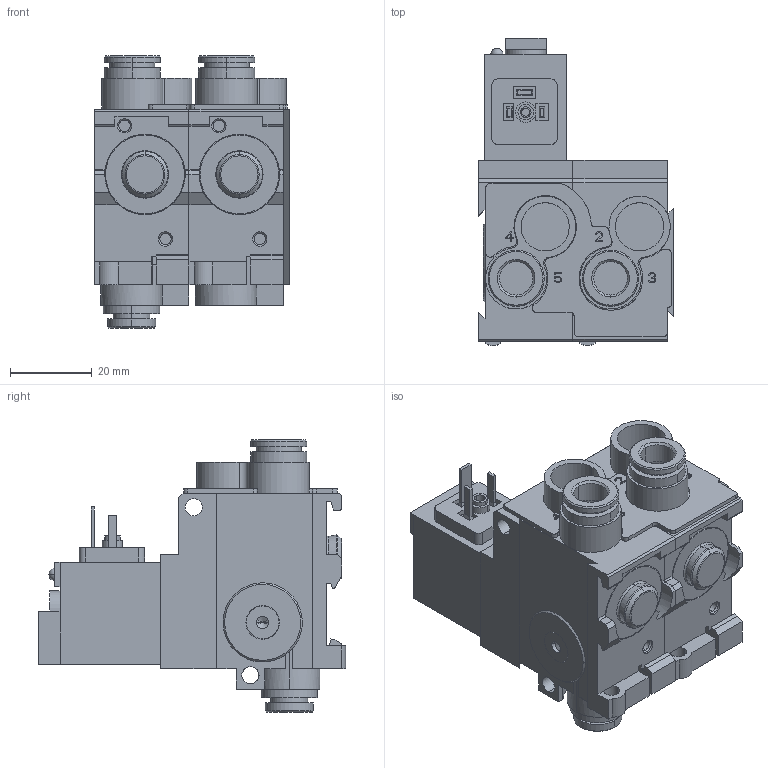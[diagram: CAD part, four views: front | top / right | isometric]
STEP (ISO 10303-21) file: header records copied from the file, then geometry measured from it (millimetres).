
FILE_DESCRIPTION((''),'2;1');
FILE_NAME('5791900620','2018-09-12T',('hug2hc'),(''),'CREO PARAMETRIC BY PTC INC, 2016260','CREO PARAMETRIC BY PTC INC, 2016260','');
FILE_SCHEMA(('CONFIG_CONTROL_DESIGN'));
Length unit declared in the file: millimetre
Products named in the file (1): 5791900620
Bounding box: 47.7 x 75.2 x 66.6 mm (x, y, z)
Volume: 95517.1 mm3; surface area: 28419.1 mm2
Topology: 1 solids, 3 shells, 734 faces, 1874 edges, 1191 vertices
Faces by surface type: plane 483, cylinder 187, cone 50, torus 12, sphere 2
Entity records: 22397 total; most frequent: CARTESIAN_POINT 4253, DIRECTION 3774, ORIENTED_EDGE 3728, EDGE_CURVE 1864, VECTOR 1366, LINE 1366, AXIS2_PLACEMENT_3D 1204, VERTEX_POINT 1191
